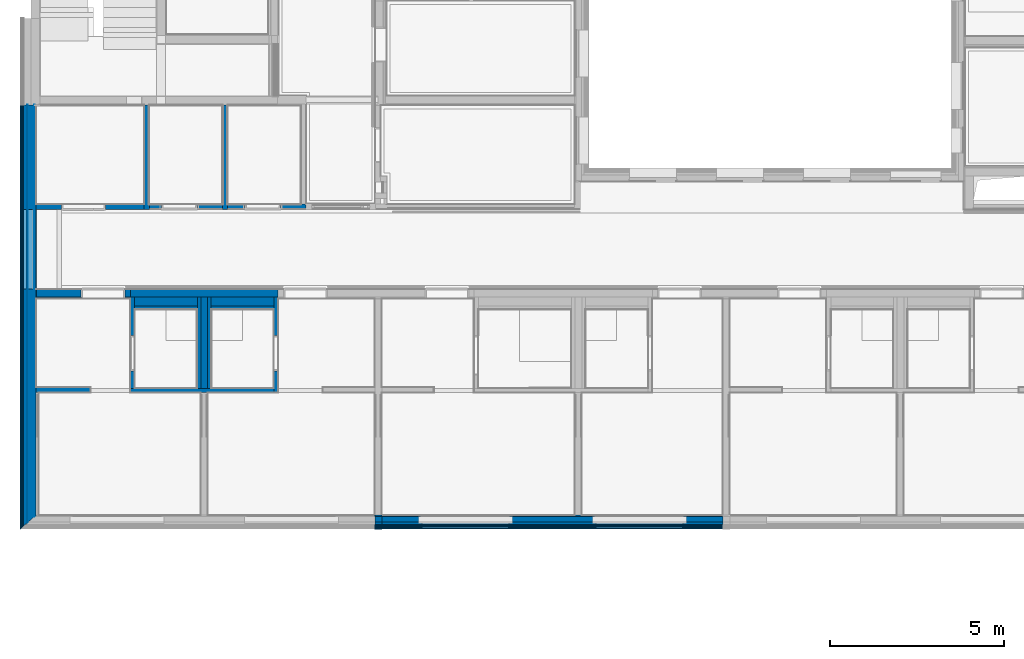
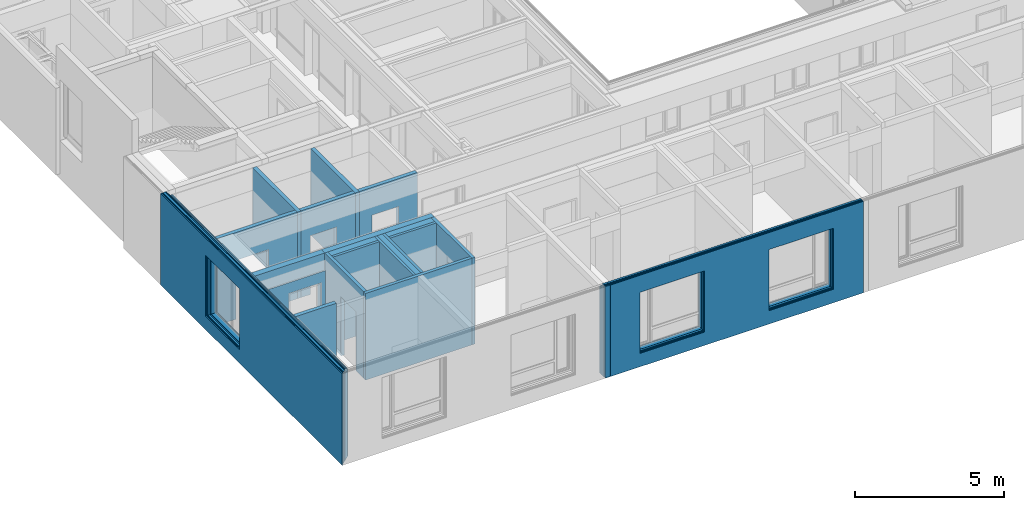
# One storey, part 10 of 222: 41 walls, 30 openings.
"""IFC4 building model written with IfcOpenShell, lengths in metres."""

from ifc_helpers import new_model, entity, si_unit, converted_unit, derived_unit, frame, frame_2d, origin, origin_with_axes, place, context, subcontext, project, spatial, polyline, rectangle, outline, extrude, clip, bounded_halfspace, material, element, save


model = new_model("IFC4")

# Units and contexts
model_context = context("Model", 3, precision=1e-05, world=origin())
body_context = subcontext(model_context, "Body", "Model", "MODEL_VIEW")
ifc_project = project(units=[si_unit("LENGTHUNIT", "METRE"), si_unit("AREAUNIT", "SQUARE_METRE"), si_unit("VOLUMEUNIT", "CUBIC_METRE"), si_unit("MASSUNIT", "GRAM", prefix="KILO"), converted_unit("PLANEANGLEUNIT", "DEGREE", entity("IfcPlaneAngleMeasure", 0.0174532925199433), si_unit("PLANEANGLEUNIT", "RADIAN"), dimensions=[0, 0, 0, 0, 0, 0, 0]), derived_unit("THERMALTRANSMITTANCEUNIT", [(si_unit("POWERUNIT", "WATT"), 1), (si_unit("THERMODYNAMICTEMPERATUREUNIT", "KELVIN"), -1), (si_unit("LENGTHUNIT", "METRE"), -2)]), derived_unit("VOLUMETRICFLOWRATEUNIT", [(si_unit("LENGTHUNIT", "METRE"), 3), (converted_unit("TIMEUNIT", "hour", entity("IfcTimeMeasure", 3600.0), si_unit("TIMEUNIT", "SECOND"), dimensions=[0, 0, 1, 0, 0, 0, 0]), -1), (si_unit("LENGTHUNIT", "METRE"), -1)])], contexts=[model_context])

# Site, building, storey
site_placement = place(None, origin())
site = spatial("IfcSite", under=ifc_project, at=site_placement, Name="Psychiatrie Neubau Wunstorf", CompositionType="ELEMENT")
building_placement = place(site_placement, origin())
building = spatial("IfcBuilding", under=site, at=building_placement, Name="Neubau H2 Stationsgebäude", CompositionType="ELEMENT")
storey_placement = place(building_placement, frame((0.0, 0.0, 3.6)))
storey = spatial("IfcBuildingStorey", under=building, at=storey_placement, Name="H2 Ebene +1", CompositionType="ELEMENT", Elevation=3.6)

# Wall, openings
ifc_material_1 = material(Name="WA-LB")
wall_1_placement = place(storey_placement, frame((19.9, -2.16399999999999, 0.0), z_axis=(0.0, 0.0, 1.0), x_axis=(-1.0, 1.39208372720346e-16, 0.0)))
wall_1 = element("IfcWall", 1, at=wall_1_placement, inside=storey, material=ifc_material_1, context=body_context, shape_type="SweptSolid", body=[
    extrude(rectangle(XDim=9.8, YDim=0.036, at=frame_2d((4.9, 0.018), x_axis=(1.0, 0.0))), origin_with_axes(), (0.0, 0.0, 1.0), 3.55),
])
opening_1_placement = place(wall_1_placement, frame((6.15, 0.0, 0.55), z_axis=(0.0, 1.0, 0.0), x_axis=(0.0, 0.0, 1.0)))
element("IfcOpeningElement", 2, at=opening_1_placement, cuts=wall_1, Name="Fensteröffnung", ObjectType="Opening", context=body_context, shape_type="SweptSolid", body=[
    extrude(outline(polyline([(2.5, 2.5), (2.5, 0.0), (0.0, 0.0), (0.0, 2.5), (2.5, 2.5)])), origin_with_axes(), (0.0, 0.0, 1.0), 0.036),
])
opening_2_placement = place(wall_1_placement, frame((1.15, 0.0, 0.55), z_axis=(0.0, 1.0, 0.0), x_axis=(0.0, 0.0, 1.0)))
element("IfcOpeningElement", 3, at=opening_2_placement, cuts=wall_1, Name="Fensteröffnung", ObjectType="Opening", context=body_context, shape_type="SweptSolid", body=[
    extrude(outline(polyline([(2.5, 2.5), (2.5, 0.0), (0.0, 0.0), (0.0, 2.5), (2.5, 2.5)])), origin_with_axes(), (0.0, 0.0, 1.0), 0.036),
])

ifc_material_2 = material(Name="WA-HD")
wall_2_placement = place(storey_placement, frame((19.9, -2.19999999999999, 0.0), z_axis=(0.0, 0.0, 1.0), x_axis=(-1.0, 1.39208372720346e-16, 0.0)))
wall_2 = element("IfcWall", 4, at=wall_2_placement, inside=storey, material=ifc_material_2, context=body_context, shape_type="Clipping", body=[
    clip(clip(extrude(rectangle(XDim=9.8, YDim=0.16, at=frame_2d((4.9, 0.08), x_axis=(1.0, 0.0))), origin_with_axes(), (0.0, 0.0, 1.0), 3.55), bounded_halfspace(frame((7.40000001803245, 0.0800000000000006, 0.26), z_axis=(0.0, 0.0, 1.0), x_axis=(1.0, -2.9216569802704e-17, 0.0)), True, origin_with_axes(), polyline([(6.05, 0.0), (8.7500000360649, 0.0), (8.7500000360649, 0.16), (6.05, 0.16), (6.05, 0.0)]))), bounded_halfspace(frame((2.40000001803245, 0.0799999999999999, 0.26), z_axis=(0.0, 0.0, 1.0), x_axis=(1.0, -2.92165698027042e-17, 0.0)), True, origin_with_axes(), polyline([(1.05, 0.0), (3.7500000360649, 0.0), (3.7500000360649, 0.16), (1.05, 0.16), (1.05, 0.0)]))),
])
opening_3_placement = place(wall_2_placement, frame((6.15, 0.0, 0.55), z_axis=(0.0, 1.0, 0.0), x_axis=(0.0, 0.0, 1.0)))
element("IfcOpeningElement", 5, at=opening_3_placement, cuts=wall_2, Name="Fensteröffnung", ObjectType="Opening", context=body_context, shape_type="SweptSolid", body=[
    extrude(outline(polyline([(2.5, 2.5), (2.5, 0.0), (0.0, 0.0), (0.0, 2.5), (2.5, 2.5)])), origin_with_axes(), (0.0, 0.0, 1.0), 0.16),
])
opening_4_placement = place(wall_2_placement, frame((1.15, 0.0, 0.55), z_axis=(0.0, 1.0, 0.0), x_axis=(0.0, 0.0, 1.0)))
element("IfcOpeningElement", 6, at=opening_4_placement, cuts=wall_2, Name="Fensteröffnung", ObjectType="Opening", context=body_context, shape_type="SweptSolid", body=[
    extrude(outline(polyline([(2.5, 2.5), (2.5, 0.0), (0.0, 0.0), (0.0, 2.5), (2.5, 2.5)])), origin_with_axes(), (0.0, 0.0, 1.0), 0.16),
])

ifc_material_3 = material(Name="WA-DL")
wall_3_placement = place(storey_placement, frame((19.9, -2.35999999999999, 0.0), z_axis=(0.0, 0.0, 1.0), x_axis=(-1.0, 1.39208372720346e-16, 0.0)))
wall_3 = element("IfcWall", 7, at=wall_3_placement, inside=storey, material=ifc_material_3, context=body_context, shape_type="SweptSolid", body=[
    extrude(rectangle(XDim=9.8, YDim=0.08, at=frame_2d((4.9, 0.04), x_axis=(1.0, 0.0))), origin_with_axes(), (0.0, 0.0, 1.0), 3.75),
])
opening_5_placement = place(wall_3_placement, frame((6.15, 0.0, 0.55), z_axis=(0.0, 1.0, 0.0), x_axis=(0.0, 0.0, 1.0)))
element("IfcOpeningElement", 8, at=opening_5_placement, cuts=wall_3, Name="Fensteröffnung", ObjectType="Opening", context=body_context, shape_type="SweptSolid", body=[
    extrude(outline(polyline([(2.5, 2.5), (2.5, 0.0), (0.0, 0.0), (0.0, 2.5), (2.5, 2.5)])), origin_with_axes(), (0.0, 0.0, 1.0), 0.08),
])
opening_6_placement = place(wall_3_placement, frame((1.15, 0.0, 0.55), z_axis=(0.0, 1.0, 0.0), x_axis=(0.0, 0.0, 1.0)))
element("IfcOpeningElement", 9, at=opening_6_placement, cuts=wall_3, Name="Fensteröffnung", ObjectType="Opening", context=body_context, shape_type="SweptSolid", body=[
    extrude(outline(polyline([(2.5, 2.5), (2.5, 0.0), (0.0, 0.0), (0.0, 2.5), (2.5, 2.5)])), origin_with_axes(), (0.0, 0.0, 1.0), 0.08),
])

ifc_material_4 = material(Name="WA-LB")
wall_4_placement = place(storey_placement, frame((19.9, -2.43999999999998, 0.0), z_axis=(0.0, 0.0, 1.0), x_axis=(-1.0, 1.39208372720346e-16, 0.0)))
wall_4 = element("IfcWall", 10, at=wall_4_placement, inside=storey, material=ifc_material_4, context=body_context, shape_type="SweptSolid", body=[
    extrude(rectangle(XDim=9.8, YDim=0.036, at=frame_2d((4.9, 0.018), x_axis=(1.0, 0.0))), origin_with_axes(), (0.0, 0.0, 1.0), 3.75),
])
opening_7_placement = place(wall_4_placement, frame((1.15, 0.0, 0.55), z_axis=(0.0, 1.0, 0.0), x_axis=(0.0, 0.0, 1.0)))
element("IfcOpeningElement", 11, at=opening_7_placement, cuts=wall_4, Name="Fensteröffnung", ObjectType="Opening", context=body_context, shape_type="SweptSolid", body=[
    extrude(outline(polyline([(2.5, 2.5), (2.5, 0.0), (0.0, 0.0), (0.0, 2.5), (2.5, 2.5)])), origin_with_axes(), (0.0, 0.0, 1.0), 0.036),
])
opening_8_placement = place(wall_4_placement, frame((6.15, 0.0, 0.55), z_axis=(0.0, 1.0, 0.0), x_axis=(0.0, 0.0, 1.0)))
element("IfcOpeningElement", 12, at=opening_8_placement, cuts=wall_4, Name="Fensteröffnung", ObjectType="Opening", context=body_context, shape_type="SweptSolid", body=[
    extrude(outline(polyline([(2.5, 2.5), (2.5, 0.0), (0.0, 0.0), (0.0, 2.5), (2.5, 2.5)])), origin_with_axes(), (0.0, 0.0, 1.0), 0.036),
])

ifc_material_5 = material(Name="WA-KL")
wall_5_placement = place(storey_placement, frame((19.9, -2.47599999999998, 0.0), z_axis=(0.0, 0.0, 1.0), x_axis=(-1.0, 1.39208372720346e-16, 0.0)))
wall_5 = element("IfcWall", 13, at=wall_5_placement, inside=storey, material=ifc_material_5, context=body_context, shape_type="SweptSolid", body=[
    extrude(rectangle(XDim=9.8, YDim=0.024, at=frame_2d((4.9, 0.012), x_axis=(1.0, 0.0))), origin_with_axes(), (0.0, 0.0, 1.0), 3.75),
])
opening_9_placement = place(wall_5_placement, frame((6.15, 0.0, 0.55), z_axis=(0.0, 1.0, 0.0), x_axis=(0.0, 0.0, 1.0)))
element("IfcOpeningElement", 14, at=opening_9_placement, cuts=wall_5, Name="Fensteröffnung", ObjectType="Opening", context=body_context, shape_type="SweptSolid", body=[
    extrude(outline(polyline([(2.5, 2.5), (2.5, 0.0), (0.0, 0.0), (0.0, 2.5), (2.5, 2.5)])), origin_with_axes(), (0.0, 0.0, 1.0), 0.024),
])
opening_10_placement = place(wall_5_placement, frame((1.15, 0.0, 0.55), z_axis=(0.0, 1.0, 0.0), x_axis=(0.0, 0.0, 1.0)))
element("IfcOpeningElement", 15, at=opening_10_placement, cuts=wall_5, Name="Fensteröffnung", ObjectType="Opening", context=body_context, shape_type="SweptSolid", body=[
    extrude(outline(polyline([(2.5, 2.5), (2.5, 0.0), (0.0, 0.0), (0.0, 2.5), (2.5, 2.5)])), origin_with_axes(), (0.0, 0.0, 1.0), 0.024),
])

ifc_material_6 = material(Name="WA-TL")
wall_6_placement = place(storey_placement, frame((19.9, -2.49999999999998, 0.0), z_axis=(0.0, 0.0, 1.0), x_axis=(-1.0, 1.39208372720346e-16, 0.0)))
wall_6 = element("IfcWall", 16, at=wall_6_placement, inside=storey, material=ifc_material_6, context=body_context, shape_type="SweptSolid", body=[
    extrude(rectangle(XDim=9.8, YDim=0.024, at=frame_2d((4.9, 0.012), x_axis=(1.0, 0.0))), origin_with_axes(), (0.0, 0.0, 1.0), 3.75),
])
opening_11_placement = place(wall_6_placement, frame((1.15, 0.0, 0.55), z_axis=(0.0, 1.0, 0.0), x_axis=(0.0, 0.0, 1.0)))
element("IfcOpeningElement", 17, at=opening_11_placement, cuts=wall_6, Name="Fensteröffnung", ObjectType="Opening", context=body_context, shape_type="SweptSolid", body=[
    extrude(outline(polyline([(2.5, 2.5), (2.5, 0.0), (0.0, 0.0), (0.0, 2.5), (2.5, 2.5)])), origin_with_axes(), (0.0, 0.0, 1.0), 0.024),
])
opening_12_placement = place(wall_6_placement, frame((6.15, 0.0, 0.55), z_axis=(0.0, 1.0, 0.0), x_axis=(0.0, 0.0, 1.0)))
element("IfcOpeningElement", 18, at=opening_12_placement, cuts=wall_6, Name="Fensteröffnung", ObjectType="Opening", context=body_context, shape_type="SweptSolid", body=[
    extrude(outline(polyline([(2.5, 2.5), (2.5, 0.0), (0.0, 0.0), (0.0, 2.5), (2.5, 2.5)])), origin_with_axes(), (0.0, 0.0, 1.0), 0.024),
])

ifc_material_7 = material(Name="WA-HS")
wall_7_placement = place(storey_placement, frame((19.9, -2.52399999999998, 0.0), z_axis=(0.0, 0.0, 1.0), x_axis=(-1.0, 1.39208372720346e-16, 0.0)))
wall_7 = element("IfcWall", 19, at=wall_7_placement, inside=storey, material=ifc_material_7, context=body_context, shape_type="SweptSolid", body=[
    extrude(rectangle(XDim=9.8, YDim=0.042, at=frame_2d((4.9, 0.021), x_axis=(1.0, 0.0))), origin_with_axes(), (0.0, 0.0, 1.0), 3.75),
])
opening_13_placement = place(wall_7_placement, frame((6.15, 0.0, 0.55), z_axis=(0.0, 1.0, 0.0), x_axis=(0.0, 0.0, 1.0)))
element("IfcOpeningElement", 20, at=opening_13_placement, cuts=wall_7, Name="Fensteröffnung", ObjectType="Opening", context=body_context, shape_type="SweptSolid", body=[
    extrude(outline(polyline([(2.5, 2.5), (2.5, 0.0), (0.0, 0.0), (0.0, 2.5), (2.5, 2.5)])), origin_with_axes(), (0.0, 0.0, 1.0), 0.042),
])
opening_14_placement = place(wall_7_placement, frame((1.15, 0.0, 0.55), z_axis=(0.0, 1.0, 0.0), x_axis=(0.0, 0.0, 1.0)))
element("IfcOpeningElement", 21, at=opening_14_placement, cuts=wall_7, Name="Fensteröffnung", ObjectType="Opening", context=body_context, shape_type="SweptSolid", body=[
    extrude(outline(polyline([(2.5, 2.5), (2.5, 0.0), (0.0, 0.0), (0.0, 2.5), (2.5, 2.5)])), origin_with_axes(), (0.0, 0.0, 1.0), 0.042),
])

# Walls
ifc_material_8 = material(Name="WA-LB")
wall_8_placement = place(storey_placement, frame((10.1, -2.16399999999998, 0.0), z_axis=(0.0, 0.0, 1.0), x_axis=(-1.0, 0.0, 0.0)))
element("IfcWall", 22, at=wall_8_placement, inside=storey, material=ifc_material_8, Name="2x Gipsfaserplatte", context=body_context, shape_type="SweptSolid", body=[
    extrude(rectangle(XDim=0.2, YDim=0.036, at=frame_2d((0.1, 0.018), x_axis=(1.0, 0.0))), origin_with_axes(), (0.0, 0.0, 1.0), 3.55),
])
ifc_material_9 = material(Name="WA-HD")
wall_9_placement = place(storey_placement, frame((10.1, -2.19999999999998, 0.0), z_axis=(0.0, 0.0, 1.0), x_axis=(-1.0, 0.0, 0.0)))
element("IfcWall", 23, at=wall_9_placement, inside=storey, material=ifc_material_9, Name="Holzständer + Zwischendämmung", context=body_context, shape_type="SweptSolid", body=[
    extrude(rectangle(XDim=0.2, YDim=0.16, at=frame_2d((0.1, 0.08), x_axis=(1.0, 0.0))), origin_with_axes(), (0.0, 0.0, 1.0), 3.55),
])
ifc_material_10 = material(Name="WA-DL")
wall_10_placement = place(storey_placement, frame((10.1, -2.35999999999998, 0.0), z_axis=(0.0, 0.0, 1.0), x_axis=(-1.0, 0.0, 0.0)))
element("IfcWall", 24, at=wall_10_placement, inside=storey, material=ifc_material_10, Name="Staffel + Zwischendämmung", context=body_context, shape_type="SweptSolid", body=[
    extrude(rectangle(XDim=0.2, YDim=0.08, at=frame_2d((0.1, 0.04), x_axis=(1.0, 0.0))), origin_with_axes(), (0.0, 0.0, 1.0), 3.75),
])
ifc_material_11 = material(Name="WA-LB")
wall_11_placement = place(storey_placement, frame((10.1, -2.43999999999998, 0.0), z_axis=(0.0, 0.0, 1.0), x_axis=(-1.0, 0.0, 0.0)))
element("IfcWall", 25, at=wall_11_placement, inside=storey, material=ifc_material_11, context=body_context, shape_type="SweptSolid", body=[
    extrude(rectangle(XDim=0.2, YDim=0.036, at=frame_2d((0.1, 0.018), x_axis=(1.0, 0.0))), origin_with_axes(), (0.0, 0.0, 1.0), 3.75),
])
ifc_material_12 = material(Name="WA-KL")
wall_12_placement = place(storey_placement, frame((10.1, -2.47599999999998, 0.0), z_axis=(0.0, 0.0, 1.0), x_axis=(-1.0, 0.0, 0.0)))
element("IfcWall", 26, at=wall_12_placement, inside=storey, material=ifc_material_12, Name="Konterlattung", context=body_context, shape_type="SweptSolid", body=[
    extrude(rectangle(XDim=0.2, YDim=0.024, at=frame_2d((0.1, 0.012), x_axis=(1.0, 0.0))), origin_with_axes(), (0.0, 0.0, 1.0), 3.75),
])
ifc_material_13 = material(Name="WA-TL")
wall_13_placement = place(storey_placement, frame((10.1, -2.49999999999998, 0.0), z_axis=(0.0, 0.0, 1.0), x_axis=(-1.0, 0.0, 0.0)))
element("IfcWall", 27, at=wall_13_placement, inside=storey, material=ifc_material_13, Name="Traglattung", context=body_context, shape_type="SweptSolid", body=[
    extrude(rectangle(XDim=0.2, YDim=0.024, at=frame_2d((0.1, 0.012), x_axis=(1.0, 0.0))), origin_with_axes(), (0.0, 0.0, 1.0), 3.75),
])
ifc_material_14 = material(Name="WA-HS")
wall_14_placement = place(storey_placement, frame((10.1, -2.52399999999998, 0.0), z_axis=(0.0, 0.0, 1.0), x_axis=(-1.0, 0.0, 0.0)))
element("IfcWall", 28, at=wall_14_placement, inside=storey, material=ifc_material_14, Name="Holzschindel", context=body_context, shape_type="SweptSolid", body=[
    extrude(rectangle(XDim=0.2, YDim=0.042, at=frame_2d((0.1, 0.021), x_axis=(1.0, 0.0))), origin_with_axes(), (0.0, 0.0, 1.0), 3.75),
])

# Wall, opening
ifc_material_15 = material(Name="WA-LB")
wall_15_placement = place(storey_placement, frame((0.169999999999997, -2.16399999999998, 0.0), z_axis=(0.0, 0.0, 1.0), x_axis=(1.9045848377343e-16, 1.0, 0.0)))
wall_15 = element("IfcWall", 29, at=wall_15_placement, inside=storey, material=ifc_material_15, Name="2x Gipsfaserplatte", context=body_context, shape_type="SweptSolid", body=[
    extrude(outline(polyline([(0.0313246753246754, -0.036), (11.8203245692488, -0.036), (11.8203245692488, 0.0), (0.0, 0.0), (0.0313246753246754, -0.036)])), frame((-0.0313246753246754, 0.036, 0.0), z_axis=(0.0, 0.0, 1.0), x_axis=(1.0, 0.0, 0.0)), (0.0, 0.0, 1.0), 3.55),
])
opening_15_placement = place(wall_15_placement, frame((8.78187476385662, 0.036, 0.55), z_axis=(0.0, -1.0, 0.0), x_axis=(0.0, 0.0, 1.0)))
element("IfcOpeningElement", 30, at=opening_15_placement, cuts=wall_15, Name="Fensteröffnung", ObjectType="Opening", context=body_context, shape_type="SweptSolid", body=[
    extrude(outline(polyline([(2.5, 2.28), (2.5, 0.0), (0.0, 0.0), (0.0, 2.28), (2.5, 2.28)])), origin_with_axes(), (0.0, 0.0, 1.0), 0.036),
])

ifc_material_16 = material(Name="WA-LB")
wall_16_placement = place(storey_placement, frame((0.133999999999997, -2.19532467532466, 0.0), z_axis=(0.0, 0.0, 1.0), x_axis=(1.92358233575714e-16, 1.0, 0.0)))
wall_16 = element("IfcWall", 31, at=wall_16_placement, inside=storey, material=ifc_material_16, Name="2x Gipsfaserplatte", context=body_context, shape_type="SweptSolid", body=[
    extrude(outline(polyline([(0.0165324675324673, -0.019), (11.8368570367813, -0.019), (11.8368570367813, 0.0), (0.0, 0.0), (0.0165324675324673, -0.019)])), frame((-0.0165324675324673, 0.019, 0.0), z_axis=(0.0, 0.0, 1.0), x_axis=(1.0, 0.0, 0.0)), (0.0, 0.0, 1.0), 3.55),
])
opening_16_placement = place(wall_16_placement, frame((8.81319943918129, 0.019, 0.55), z_axis=(0.0, -1.0, 0.0), x_axis=(0.0, 0.0, 1.0)))
element("IfcOpeningElement", 32, at=opening_16_placement, cuts=wall_16, Name="Fensteröffnung", ObjectType="Opening", context=body_context, shape_type="SweptSolid", body=[
    extrude(outline(polyline([(2.5, 2.28), (2.5, 0.0), (0.0, 0.0), (0.0, 2.28), (2.5, 2.28)])), origin_with_axes(), (0.0, 0.0, 1.0), 0.019),
])

ifc_material_17 = material(Name="WA-DL")
wall_17_placement = place(storey_placement, frame((0.114999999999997, -2.21185714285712, 0.0), z_axis=(0.0, 0.0, 1.0), x_axis=(1.9208956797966e-16, 1.0, 0.0)))
wall_17 = element("IfcWall", 33, at=wall_17_placement, inside=storey, material=ifc_material_17, Name="Holzständer + Zwischendämmung", context=body_context, shape_type="SweptSolid", body=[
    extrude(outline(polyline([(0.156623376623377, -0.18), (11.9934804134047, -0.18), (11.9934804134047, 0.0), (0.0, 0.0), (0.156623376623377, -0.18)])), frame((-0.156623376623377, 0.18, 0.0), z_axis=(0.0, 0.0, 1.0), x_axis=(1.0, 0.0, 0.0)), (0.0, 0.0, 1.0), 3.55),
])
opening_17_placement = place(wall_17_placement, frame((8.82973190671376, 0.18, 0.55), z_axis=(0.0, -1.0, 0.0), x_axis=(0.0, 0.0, 1.0)))
element("IfcOpeningElement", 34, at=opening_17_placement, cuts=wall_17, Name="Fensteröffnung", ObjectType="Opening", context=body_context, shape_type="SweptSolid", body=[
    extrude(outline(polyline([(2.5, 2.28), (2.5, 0.0), (0.0, 0.0), (0.0, 2.28), (2.5, 2.28)])), origin_with_axes(), (0.0, 0.0, 1.0), 0.18),
])

ifc_material_18 = material(Name="WA-LB")
wall_18_placement = place(storey_placement, frame((-0.065000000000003, -2.3684805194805, 0.0), z_axis=(0.0, 0.0, 1.0), x_axis=(1.91950825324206e-16, 1.0, 0.0)))
wall_18 = element("IfcWall", 35, at=wall_18_placement, inside=storey, material=ifc_material_18, context=body_context, shape_type="SweptSolid", body=[
    extrude(outline(polyline([(0.0165324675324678, -0.019), (12.0100128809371, -0.019), (12.0100128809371, 0.0), (0.0, 0.0), (0.0165324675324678, -0.019)])), frame((-0.0165324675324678, 0.019, 0.0), z_axis=(0.0, 0.0, 1.0), x_axis=(1.0, 0.0, 0.0)), (0.0, 0.0, 1.0), 3.75),
])
opening_18_placement = place(wall_18_placement, frame((8.98635528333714, 0.019, 0.55), z_axis=(0.0, -1.0, 0.0), x_axis=(0.0, 0.0, 1.0)))
element("IfcOpeningElement", 36, at=opening_18_placement, cuts=wall_18, Name="Fensteröffnung", ObjectType="Opening", context=body_context, shape_type="SweptSolid", body=[
    extrude(outline(polyline([(2.5, 2.28), (2.5, 0.0), (0.0, 0.0), (0.0, 2.28), (2.5, 2.28)])), origin_with_axes(), (0.0, 0.0, 1.0), 0.019),
])

ifc_material_19 = material(Name="WA-LB")
wall_19_placement = place(storey_placement, frame((-0.084000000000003, -2.38501298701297, 0.0), z_axis=(0.0, 0.0, 1.0), x_axis=(1.92869844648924e-16, 1.0, 0.0)))
wall_19 = element("IfcWall", 37, at=wall_19_placement, inside=storey, material=ifc_material_19, context=body_context, shape_type="SweptSolid", body=[
    extrude(outline(polyline([(0.0313246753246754, -0.036), (12.0413375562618, -0.036), (12.0413375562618, 0.0), (0.0, 0.0), (0.0313246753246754, -0.036)])), frame((-0.0313246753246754, 0.036, 0.0), z_axis=(0.0, 0.0, 1.0), x_axis=(1.0, 0.0, 0.0)), (0.0, 0.0, 1.0), 3.75),
])
opening_19_placement = place(wall_19_placement, frame((9.00288775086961, 0.036, 0.55), z_axis=(0.0, -1.0, 0.0), x_axis=(0.0, 0.0, 1.0)))
element("IfcOpeningElement", 38, at=opening_19_placement, cuts=wall_19, Name="Fensteröffnung", ObjectType="Opening", context=body_context, shape_type="SweptSolid", body=[
    extrude(outline(polyline([(2.5, 2.28), (2.5, 0.0), (0.0, 0.0), (0.0, 2.28), (2.5, 2.28)])), origin_with_axes(), (0.0, 0.0, 1.0), 0.036),
])

ifc_material_20 = material(Name="WA-DL")
wall_20_placement = place(storey_placement, frame((-0.120000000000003, -2.41633766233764, 0.0), z_axis=(0.0, 0.0, 1.0), x_axis=(1.92368107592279e-16, 1.0, 0.0)))
wall_20 = element("IfcWall", 39, at=wall_20_placement, inside=storey, material=ifc_material_20, Name="Staffel + Zwischendämmung", context=body_context, shape_type="SweptSolid", body=[
    extrude(outline(polyline([(0.0696103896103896, -0.0799999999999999), (12.1109479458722, -0.0799999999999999), (12.1109479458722, 0.0), (0.0, 0.0), (0.0696103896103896, -0.0799999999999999)])), frame((-0.0696103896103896, 0.0799999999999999, 0.0), z_axis=(0.0, 0.0, 1.0), x_axis=(1.0, 0.0, 0.0)), (0.0, 0.0, 1.0), 3.75),
])
opening_20_placement = place(wall_20_placement, frame((9.03421242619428, 0.0799999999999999, 0.55), z_axis=(0.0, -1.0, 0.0), x_axis=(0.0, 0.0, 1.0)))
element("IfcOpeningElement", 40, at=opening_20_placement, cuts=wall_20, Name="Fensteröffnung", ObjectType="Opening", context=body_context, shape_type="SweptSolid", body=[
    extrude(outline(polyline([(2.5, 2.28), (2.5, 0.0), (0.0, 0.0), (0.0, 2.28), (2.5, 2.28)])), origin_with_axes(), (0.0, 0.0, 1.0), 0.0799999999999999),
])

ifc_material_21 = material(Name="WA-KL")
wall_21_placement = place(storey_placement, frame((-0.200000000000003, -2.48594805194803, 0.0), z_axis=(0.0, 0.0, 1.0), x_axis=(1.92435817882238e-16, 1.0, 0.0)))
wall_21 = element("IfcWall", 41, at=wall_21_placement, inside=storey, material=ifc_material_21, Name="Konterlattung", context=body_context, shape_type="SweptSolid", body=[
    extrude(outline(polyline([(0.0217532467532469, -0.025), (12.1327011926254, -0.025), (12.1327011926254, 0.0), (0.0, 0.0), (0.0217532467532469, -0.025)])), frame((-0.0217532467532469, 0.025, 0.0), z_axis=(0.0, 0.0, 1.0), x_axis=(1.0, 0.0, 0.0)), (0.0, 0.0, 1.0), 3.75),
])
opening_21_placement = place(wall_21_placement, frame((9.10382281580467, 0.025, 0.55), z_axis=(0.0, -1.0, 0.0), x_axis=(0.0, 0.0, 1.0)))
element("IfcOpeningElement", 42, at=opening_21_placement, cuts=wall_21, Name="Fensteröffnung", ObjectType="Opening", context=body_context, shape_type="SweptSolid", body=[
    extrude(outline(polyline([(2.5, 2.28), (2.5, 0.0), (0.0, 0.0), (0.0, 2.28), (2.5, 2.28)])), origin_with_axes(), (0.0, 0.0, 1.0), 0.025),
])

ifc_material_22 = material(Name="WA-TL")
wall_22_placement = place(storey_placement, frame((-0.225000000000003, -2.50770129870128, 0.0), z_axis=(0.0, 0.0, 1.0), x_axis=(1.9443336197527e-16, 1.0, 0.0)))
wall_22 = element("IfcWall", 43, at=wall_22_placement, inside=storey, material=ifc_material_22, Name="Traglattung", context=body_context, shape_type="SweptSolid", body=[
    extrude(outline(polyline([(0.0217532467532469, -0.025), (12.1544544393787, -0.025), (12.1544544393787, 0.0), (0.0, 0.0), (0.0217532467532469, -0.025)])), frame((-0.0217532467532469, 0.025, 0.0), z_axis=(0.0, 0.0, 1.0), x_axis=(1.0, 0.0, 0.0)), (0.0, 0.0, 1.0), 3.75),
])
opening_22_placement = place(wall_22_placement, frame((9.12557606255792, 0.025, 0.55), z_axis=(0.0, -1.0, 0.0), x_axis=(0.0, 0.0, 1.0)))
element("IfcOpeningElement", 44, at=opening_22_placement, cuts=wall_22, Name="Fensteröffnung", ObjectType="Opening", context=body_context, shape_type="SweptSolid", body=[
    extrude(outline(polyline([(2.5, 2.28), (2.5, 0.0), (0.0, 0.0), (0.0, 2.28), (2.5, 2.28)])), origin_with_axes(), (0.0, 0.0, 1.0), 0.025),
])

ifc_material_23 = material(Name="WA-HS")
wall_23_placement = place(storey_placement, frame((-0.250000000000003, -2.52945454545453, 0.0), z_axis=(0.0, 0.0, 1.0), x_axis=(1.94085377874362e-16, 1.0, 0.0)))
wall_23 = element("IfcWall", 45, at=wall_23_placement, inside=storey, material=ifc_material_23, Name="Keramikschindel", context=body_context, shape_type="SweptSolid", body=[
    extrude(outline(polyline([(0.0365454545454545, -0.042), (12.1909998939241, -0.042), (12.1909998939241, 0.0), (0.0, 0.0), (0.0365454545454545, -0.042)])), frame((-0.0365454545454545, 0.042, 0.0), z_axis=(0.0, 0.0, 1.0), x_axis=(1.0, 0.0, 0.0)), (0.0, 0.0, 1.0), 3.75),
])
opening_23_placement = place(wall_23_placement, frame((9.14732930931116, 0.042, 0.55), z_axis=(0.0, -1.0, 0.0), x_axis=(0.0, 0.0, 1.0)))
element("IfcOpeningElement", 46, at=opening_23_placement, cuts=wall_23, Name="Fensteröffnung", ObjectType="Opening", context=body_context, shape_type="SweptSolid", body=[
    extrude(outline(polyline([(2.5, 2.28), (2.5, 0.0), (0.0, 0.0), (0.0, 2.28), (2.5, 2.28)])), origin_with_axes(), (0.0, 0.0, 1.0), 0.042),
])

# Walls
ifc_material_24 = material(Name="WI-LB")
wall_24_placement = place(storey_placement, frame((3.425, 6.62499989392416, 0.0), z_axis=(0.0, 0.0, 1.0), x_axis=(0.0, 1.0, 0.0)))
element("IfcWall", 47, at=wall_24_placement, inside=storey, material=ifc_material_24, context=body_context, shape_type="SweptSolid", body=[
    extrude(rectangle(XDim=3.0, YDim=0.15, at=frame_2d((1.5, 0.075), x_axis=(1.0, 0.0))), origin_with_axes(), (0.0, 0.0, 1.0), 3.55),
])
ifc_material_25 = material(Name="WI-LB")
wall_25_placement = place(storey_placement, frame((5.675, 6.62499989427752, 0.0), z_axis=(0.0, 0.0, 1.0), x_axis=(0.0, 1.0, 0.0)))
element("IfcWall", 48, at=wall_25_placement, inside=storey, material=ifc_material_25, context=body_context, shape_type="SweptSolid", body=[
    extrude(rectangle(XDim=3.0, YDim=0.15, at=frame_2d((1.5, 0.075), x_axis=(1.0, 0.0))), origin_with_axes(), (0.0, 0.0, 1.0), 3.55),
])
ifc_material_26 = material(Name="WI-LB")
wall_26_placement = place(storey_placement, frame((7.0, 1.48374963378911, 0.0), z_axis=(0.0, 0.0, 1.0), x_axis=(-1.0, -2.37019831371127e-15, 0.0)))
element("IfcWall", 49, at=wall_26_placement, inside=storey, material=ifc_material_26, context=body_context, shape_type="SweptSolid", body=[
    extrude(rectangle(XDim=4.125, YDim=0.125, at=frame_2d((2.0625, 0.0625), x_axis=(1.0, 0.0))), origin_with_axes(), (0.0, 0.0, 1.0), 3.55),
])

# Wall, opening
ifc_material_27 = material(Name="WI-LB")
wall_27_placement = place(storey_placement, frame((7.0, 4.09874963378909, 0.0), z_axis=(0.0, 0.0, 1.0), x_axis=(0.0, -1.0, 0.0)))
wall_27 = element("IfcWall", 50, at=wall_27_placement, inside=storey, material=ifc_material_27, context=body_context, shape_type="SweptSolid", body=[
    extrude(rectangle(XDim=2.73999999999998, YDim=0.125, at=frame_2d((1.36999999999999, 0.0625), x_axis=(1.0, 0.0))), origin_with_axes(), (0.0, 0.0, 1.0), 3.55),
])
opening_24_placement = place(wall_27_placement, frame((1.10499999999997, 0.0, 0.0), z_axis=(0.0, 1.0, 0.0), x_axis=(0.0, 0.0, 1.0)))
element("IfcOpeningElement", 51, at=opening_24_placement, cuts=wall_27, Name="Türöffnung", ObjectType="Opening", context=body_context, shape_type="SweptSolid", body=[
    extrude(outline(polyline([(2.41, 1.01), (2.41, 0.0), (0.0, 0.0), (0.0, 1.01), (2.41, 1.01)])), origin_with_axes(), (0.0, 0.0, 1.0), 0.125),
])

ifc_material_28 = material(Name="WI-LB")
wall_28_placement = place(storey_placement, frame((3.275, 6.77499989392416, 0.0), z_axis=(0.0, 0.0, 1.0), x_axis=(-1.0, 0.0, 0.0)))
wall_28 = element("IfcWall", 52, at=wall_28_placement, inside=storey, material=ifc_material_28, context=body_context, shape_type="SweptSolid", body=[
    extrude(rectangle(XDim=3.105, YDim=0.15, at=frame_2d((1.5525, 0.075), x_axis=(1.0, 0.0))), origin_with_axes(), (0.0, 0.0, 1.0), 3.55),
])
opening_25_placement = place(wall_28_placement, frame((1.115, 0.0, 0.0), z_axis=(0.0, 1.0, 0.0), x_axis=(0.0, 0.0, 1.0)))
element("IfcOpeningElement", 53, at=opening_25_placement, cuts=wall_28, Name="Türöffnung", ObjectType="Opening", context=body_context, shape_type="SweptSolid", body=[
    extrude(outline(polyline([(2.41, 1.26), (2.41, 0.0), (0.0, 0.0), (0.0, 1.26), (2.41, 1.26)])), origin_with_axes(), (0.0, 0.0, 1.0), 0.15),
])

ifc_material_29 = material(Name="WI-LB")
wall_29_placement = place(storey_placement, frame((2.875, 4.0987496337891, 0.0), z_axis=(0.0, 0.0, 1.0), x_axis=(0.0, -1.0, 0.0)))
wall_29 = element("IfcWall", 54, at=wall_29_placement, inside=storey, material=ifc_material_29, context=body_context, shape_type="SweptSolid", body=[
    extrude(rectangle(XDim=2.61499999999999, YDim=0.125, at=frame_2d((1.3075, 0.0625), x_axis=(1.0, 0.0))), origin_with_axes(), (0.0, 0.0, 1.0), 3.55),
])
opening_26_placement = place(wall_29_placement, frame((2.11499999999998, 0.125, 0.0), z_axis=(0.0, -1.0, 0.0), x_axis=(0.0, 0.0, 1.0)))
element("IfcOpeningElement", 55, at=opening_26_placement, cuts=wall_29, Name="Türöffnung", ObjectType="Opening", context=body_context, shape_type="SweptSolid", body=[
    extrude(outline(polyline([(2.41, 1.01), (2.41, 0.0), (0.0, 0.0), (0.0, 1.01), (2.41, 1.01)])), origin_with_axes(), (0.0, 0.0, 1.0), 0.125),
])

# Wall, openings
ifc_material_30 = material(Name="WI-LB")
wall_30_placement = place(storey_placement, frame((7.925, 6.77499989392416, 0.0), z_axis=(0.0, 0.0, 1.0), x_axis=(-1.0, 0.0, 0.0)))
wall_30 = element("IfcWall", 56, at=wall_30_placement, inside=storey, material=ifc_material_30, context=body_context, shape_type="SweptSolid", body=[
    extrude(rectangle(XDim=2.25, YDim=0.15, at=frame_2d((1.125, 0.075), x_axis=(1.0, 0.0))), origin_with_axes(), (0.0, 0.0, 1.0), 3.55),
    extrude(rectangle(XDim=2.1, YDim=0.15, at=frame_2d((1.05, 0.075), x_axis=(1.0, 0.0))), frame((2.4, 0.0, 0.0), z_axis=(0.0, 0.0, 1.0), x_axis=(1.0, 0.0, 0.0)), (0.0, 0.0, 1.0), 3.55),
])
opening_27_placement = place(wall_30_placement, frame((0.74, 0.0, 0.0), z_axis=(0.0, 1.0, 0.0), x_axis=(0.0, 0.0, 1.0)))
element("IfcOpeningElement", 57, at=opening_27_placement, cuts=wall_30, Name="Türöffnung", ObjectType="Opening", context=body_context, shape_type="SweptSolid", body=[
    extrude(outline(polyline([(2.41, 1.01), (2.41, 0.0), (0.0, 0.0), (0.0, 1.01), (2.41, 1.01)])), origin_with_axes(), (0.0, 0.0, 1.0), 0.15),
])
opening_28_placement = place(wall_30_placement, frame((3.14, 0.0, 0.0), z_axis=(0.0, 1.0, 0.0), x_axis=(0.0, 0.0, 1.0)))
element("IfcOpeningElement", 58, at=opening_28_placement, cuts=wall_30, Name="Türöffnung", ObjectType="Opening", context=body_context, shape_type="SweptSolid", body=[
    extrude(outline(polyline([(2.41, 1.01), (2.41, 0.0), (0.0, 0.0), (0.0, 1.01), (2.41, 1.01)])), origin_with_axes(), (0.0, 0.0, 1.0), 0.15),
])

# Wall
ifc_material_31 = material(Name="WI-LB")
wall_31_placement = place(storey_placement, frame((1.744, 1.5087496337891, 0.0), z_axis=(0.0, 0.0, 1.0), x_axis=(-1.0, 2.88728476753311e-16, 0.0)))
element("IfcWall", 59, at=wall_31_placement, inside=storey, material=ifc_material_31, context=body_context, shape_type="SweptSolid", body=[
    extrude(rectangle(XDim=1.575, YDim=0.15, at=frame_2d((0.787499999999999, 0.075), x_axis=(1.0, 0.0))), origin_with_axes(), (0.0, 0.0, 1.0), 3.55),
])

# Wall, opening
ifc_material_32 = material(Name="WI-HW 60")
wall_32_placement = place(storey_placement, frame((2.875, 4.3307496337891, 0.0), z_axis=(0.0, 0.0, 1.0), x_axis=(-1.0, 1.00868173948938e-15, 0.0)))
wall_32 = element("IfcWall", 60, at=wall_32_placement, inside=storey, material=ifc_material_32, context=body_context, shape_type="SweptSolid", body=[
    extrude(rectangle(XDim=2.705, YDim=0.232, at=frame_2d((1.3525, 0.116), x_axis=(1.0, 0.0))), origin_with_axes(), (0.0, 0.0, 1.0), 3.55),
])
opening_29_placement = place(wall_32_placement, frame((0.15, 0.0, 0.0), z_axis=(-9.80058945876e-16, 1.0, 0.0), x_axis=(0.0, 0.0, 1.0)))
element("IfcOpeningElement", 61, at=opening_29_placement, cuts=wall_32, Name="Türöffnung", ObjectType="Opening", context=body_context, shape_type="SweptSolid", body=[
    extrude(outline(polyline([(2.41, 1.26), (2.41, 0.0), (0.0, 0.0), (0.0, 1.26), (2.41, 1.26)])), origin_with_axes(), (0.0, 0.0, 1.0), 0.232),
])

ifc_material_33 = material(Name="WI-LB")
wall_33_placement = place(storey_placement, frame((2.875, 4.0987496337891, 0.0), z_axis=(0.0, 0.0, 1.0), x_axis=(-1.0, 1.00868173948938e-15, 0.0)))
wall_33 = element("IfcWall", 62, at=wall_33_placement, inside=storey, material=ifc_material_33, context=body_context, shape_type="SweptSolid", body=[
    extrude(rectangle(XDim=2.705, YDim=0.0399999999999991, at=frame_2d((1.3525, 0.0199999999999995), x_axis=(1.0, 0.0))), origin_with_axes(), (0.0, 0.0, 1.0), 2.85),
])
opening_30_placement = place(wall_33_placement, frame((0.15, 0.0, 0.0), z_axis=(-7.10542735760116e-16, 1.0, 0.0), x_axis=(0.0, 0.0, 1.0)))
element("IfcOpeningElement", 63, at=opening_30_placement, cuts=wall_33, Name="Türöffnung", ObjectType="Opening", context=body_context, shape_type="SweptSolid", body=[
    extrude(outline(polyline([(2.41, 1.26), (2.41, 0.0), (0.0, 0.0), (0.0, 1.26), (2.41, 1.26)])), origin_with_axes(), (0.0, 0.0, 1.0), 0.0399999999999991),
])

# Walls
ifc_material_34 = material(Name="WI-HW 60")
wall_34_placement = place(storey_placement, frame((7.125, 4.33074963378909, 0.0), z_axis=(0.0, 0.0, 1.0), x_axis=(-1.0, 1.06999376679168e-15, 0.0)))
element("IfcWall", 64, at=wall_34_placement, inside=storey, material=ifc_material_34, context=body_context, shape_type="SweptSolid", body=[
    extrude(rectangle(XDim=4.25, YDim=0.232, at=frame_2d((2.125, 0.116), x_axis=(1.0, 0.0))), origin_with_axes(), (0.0, 0.0, 1.0), 3.55),
])
ifc_material_35 = material(Name="WI-IW")
wall_35_placement = place(storey_placement, frame((3.0, 3.74874963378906, 0.0)))
element("IfcWall", 65, at=wall_35_placement, inside=storey, material=ifc_material_35, context=body_context, shape_type="SweptSolid", body=[
    extrude(rectangle(XDim=1.8, YDim=0.1, at=frame_2d((0.9, 0.05), x_axis=(1.0, 0.0))), origin_with_axes(), (0.0, 0.0, 1.0), 3.55),
])
ifc_material_36 = material(Name="Installationsraum")
wall_36_placement = place(storey_placement, frame((3.0, 3.84874963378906, 0.0)))
element("IfcWall", 66, at=wall_36_placement, inside=storey, material=ifc_material_36, context=body_context, shape_type="SweptSolid", body=[
    extrude(rectangle(XDim=1.8, YDim=0.25, at=frame_2d((0.9, 0.125), x_axis=(1.0, 0.0))), origin_with_axes(), (0.0, 0.0, 1.0), 3.55),
])
ifc_material_37 = material(Name="WI-IW")
wall_37_placement = place(storey_placement, frame((4.8, 4.0987496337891, 0.0), z_axis=(0.0, 0.0, 1.0), x_axis=(0.0, -1.0, 0.0)))
element("IfcWall", 67, at=wall_37_placement, inside=storey, material=ifc_material_37, context=body_context, shape_type="SweptSolid", body=[
    extrude(rectangle(XDim=2.61499999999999, YDim=0.1, at=frame_2d((1.30749999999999, 0.05), x_axis=(1.0, 0.0))), origin_with_axes(), (0.0, 0.0, 1.0), 3.55),
])
ifc_material_38 = material(Name="Installationsraum")
wall_38_placement = place(storey_placement, frame((4.9, 4.0987496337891, 0.0), z_axis=(0.0, 0.0, 1.0), x_axis=(0.0, -1.0, 0.0)))
element("IfcWall", 68, at=wall_38_placement, inside=storey, material=ifc_material_38, context=body_context, shape_type="SweptSolid", body=[
    extrude(rectangle(XDim=2.61499999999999, YDim=0.2, at=frame_2d((1.30749999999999, 0.1), x_axis=(1.0, 0.0))), origin_with_axes(), (0.0, 0.0, 1.0), 3.55),
])
ifc_material_39 = material(Name="WI-IW")
wall_39_placement = place(storey_placement, frame((5.1, 4.09874963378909, 0.0), z_axis=(0.0, 0.0, 1.0), x_axis=(0.0, -1.0, 0.0)))
element("IfcWall", 69, at=wall_39_placement, inside=storey, material=ifc_material_39, context=body_context, shape_type="SweptSolid", body=[
    extrude(rectangle(XDim=2.61499999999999, YDim=0.1, at=frame_2d((1.30749999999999, 0.05), x_axis=(1.0, 0.0))), origin_with_axes(), (0.0, 0.0, 1.0), 3.55),
])
ifc_material_40 = material(Name="WI-IW")
wall_40_placement = place(storey_placement, frame((5.2, 3.74874963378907, 0.0)))
element("IfcWall", 70, at=wall_40_placement, inside=storey, material=ifc_material_40, context=body_context, shape_type="SweptSolid", body=[
    extrude(rectangle(XDim=1.8, YDim=0.1, at=frame_2d((0.9, 0.05), x_axis=(1.0, 0.0))), origin_with_axes(), (0.0, 0.0, 1.0), 3.55),
])
ifc_material_41 = material(Name="Installationsraum")
wall_41_placement = place(storey_placement, frame((5.2, 3.84874963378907, 0.0)))
element("IfcWall", 71, at=wall_41_placement, inside=storey, material=ifc_material_41, context=body_context, shape_type="SweptSolid", body=[
    extrude(rectangle(XDim=1.8, YDim=0.25, at=frame_2d((0.9, 0.125), x_axis=(1.0, 0.0))), origin_with_axes(), (0.0, 0.0, 1.0), 3.55),
])

save(model, "model.ifc")
